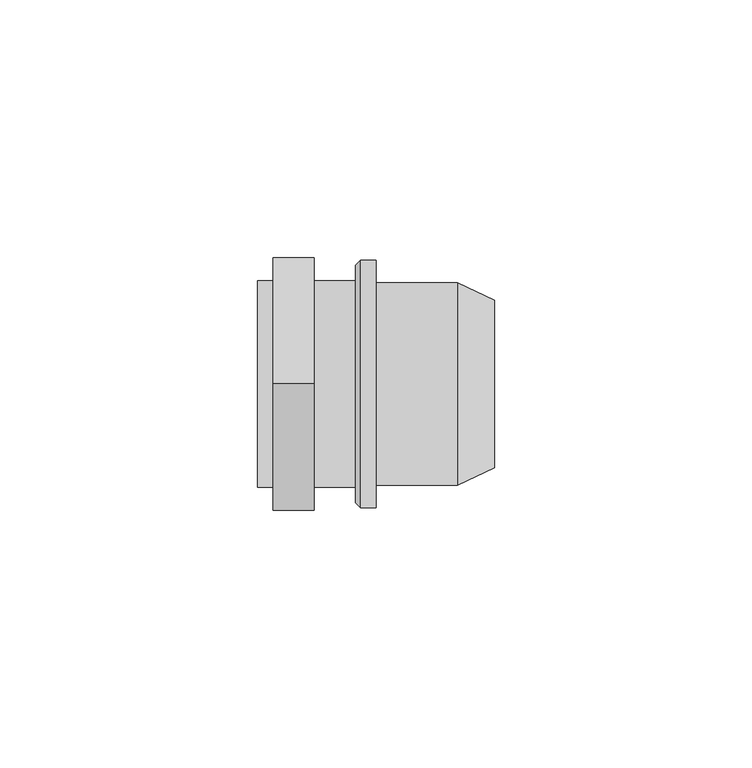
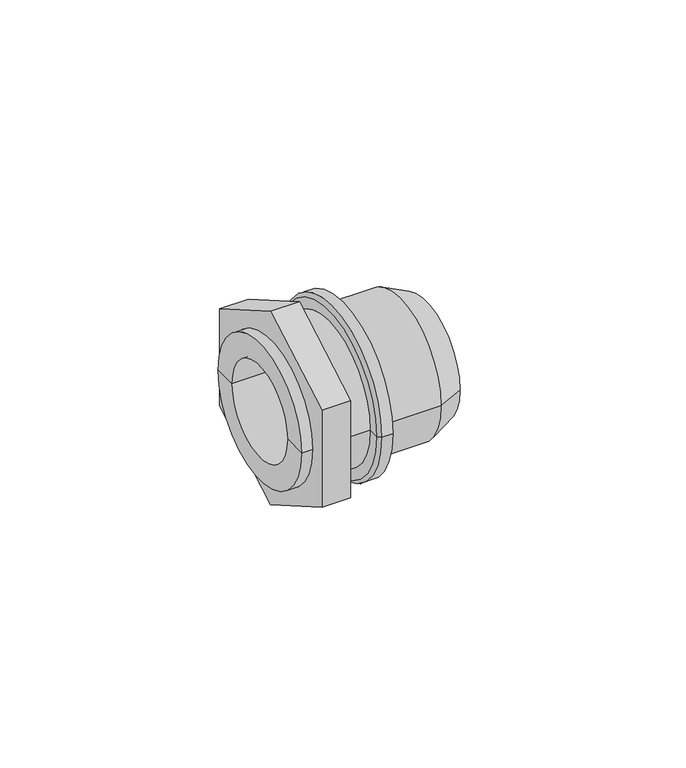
"""IFC4 building model written with IfcOpenShell, lengths in millimetres: pipe fitting geometry."""

from ifc_helpers import new_model, si_unit, point, frame, origin, origin_2d, place, context, project, spatial, polyline, circle_curve, trimmed, segment, composite_curve, outline, extrude, source, transform, mapped, element, save
from ifc_brep_helpers import plane_surface, cylinder_surface, revolved_surface, advanced_brep


def pipe_fitting_d3801dd3(model_context):
    return source(origin(), model_context, "Body", "SolidModel", [
        extrude(outline(polyline([(24.5, -14.1450816), (0.0, -28.2901632), (-24.5, -14.1450816), (-24.5, 14.1450816), (0.0, 28.2901632), (24.5, 14.1450816), (24.5, -14.1450816)]), holes=[composite_curve([segment(trimmed(circle_curve(origin_2d(), 20.0), [point((20.0, 0.0))], [point((-20.0, 0.0))], True, "CARTESIAN"), True, "CONTINUOUS"), segment(trimmed(circle_curve(origin_2d(), 20.0), [point((-20.0, 0.0))], [point((20.0, 0.0))], True, "CARTESIAN"), True, "CONTINUOUS")], self_intersect=False)]), frame((-20.0, 0.0, 0.0), z_axis=(1.0, 0.0, 0.0), x_axis=(0.0, 1.0, 0.0)), (0.0, 0.0, 1.0), 8.0),
        advanced_brep(
        [(0.0, 19.6, 0.0), (0.0, -19.6, 0.0), (0.0, 0.0, 0.0), (15.8159018, 19.6, 0.0), (15.8159018, -19.6, 0.0), (23.0, 16.25, 0.0), (23.0, -16.25, 0.0), (3.0, 14.0, 0.0), (3.0, -14.0, 0.0), (23.0, -14.0, 0.0), (23.0, 14.0, 0.0), (3.0, 0.0, 0.0)],
        [
            (0, 1, circle_curve(frame((0.0, 0.0, 0.0), z_axis=(-1.0, 0.0, 0.0), x_axis=(0.0, -1.0, 0.0)), 19.6)),
            (1, 2),
            (2, 0),
            (1, 0, circle_curve(frame((0.0, 0.0, 0.0), z_axis=(-1.0, 0.0, 0.0), x_axis=(0.0, -1.0, 0.0)), 19.6)),
            (3, 4, circle_curve(frame((15.8159018, 0.0, 0.0), z_axis=(-1.0, 0.0, 0.0), x_axis=(0.0, -1.0, 0.0)), 19.6)),
            (4, 1),
            (0, 3),
            (4, 3, circle_curve(frame((15.8159018, 0.0, 0.0), z_axis=(-1.0, 0.0, 0.0), x_axis=(0.0, -1.0, 0.0)), 19.6)),
            (5, 6, circle_curve(frame((23.0, 0.0, 0.0), z_axis=(-1.0, 0.0, 0.0), x_axis=(0.0, -1.0, 0.0)), 16.25)),
            (6, 4),
            (3, 5),
            (6, 5, circle_curve(frame((23.0, 0.0, 0.0), z_axis=(-1.0, 0.0, 0.0), x_axis=(0.0, -1.0, 0.0)), 16.25)),
            (7, 8, circle_curve(frame((3.0, 0.0, 0.0), z_axis=(-1.0, 0.0, 0.0), x_axis=(0.0, -1.0, 0.0)), 14.0)),
            (8, 9),
            (9, 10, circle_curve(frame((23.0, 0.0, 0.0), z_axis=(1.0, 0.0, 0.0), x_axis=(0.0, -1.0, 0.0)), 14.0)),
            (10, 7),
            (8, 7, circle_curve(frame((3.0, 0.0, 0.0), z_axis=(-1.0, 0.0, 0.0), x_axis=(0.0, -1.0, 0.0)), 14.0)),
            (10, 9, circle_curve(frame((23.0, 0.0, 0.0), z_axis=(1.0, 0.0, 0.0), x_axis=(0.0, -1.0, 0.0)), 14.0)),
            (11, 8),
            (7, 11),
            (9, 6),
            (5, 10),
        ],
        [
            plane_surface(frame((0.0, 0.0, 0.0), z_axis=(-1.0, 0.0, 0.0), x_axis=(0.0, -1.0, 0.0))),
            cylinder_surface(frame((33.0, 0.0, 0.0), z_axis=(1.0, 0.0, 0.0), x_axis=(0.0, -1.0, 0.0)), 19.6),
            revolved_surface(polyline([(15.8159018, -19.6, 0.0), (23.0, -16.25, 0.0)]), (33.0, 0.0, 0.0), (1.0, 0.0, 0.0)),
            revolved_surface(polyline([(23.0, -14.0, 0.0), (3.0, -14.0, 0.0)]), (33.0, 0.0, 0.0), (1.0, 0.0, 0.0)),
            plane_surface(frame((3.0, 0.0, 0.0), z_axis=(1.0, 0.0, 0.0), x_axis=(0.0, -1.0, 0.0))),
            plane_surface(frame((23.0, 0.0, 0.0), z_axis=(1.0, 0.0, 0.0), x_axis=(0.0, -1.0, 0.0))),
        ],
        [
            (0, [[1, 2, 3]]),
            (0, [[4, -3, -2]]),
            (1, [[5, 6, -1, 7]]),
            (1, [[8, -7, -4, -6]]),
            (2, [[9, 10, -5, 11]]),
            (2, [[12, -11, -8, -10]]),
            (3, [[13, 14, 15, 16]]),
            (3, [[17, -16, 18, -14]]),
            (4, [[19, -13, 20]]),
            (4, [[-20, -17, -19]]),
            (5, [[-15, 21, -9, 22]]),
            (5, [[-18, -22, -12, -21]]),
        ],
    ),
        advanced_brep(
        [(0.0, 24.0, 0.0), (0.0, -24.0, 0.0), (-3.0, -24.0, 0.0), (-3.0, 24.0, 0.0), (0.0, 0.0, 0.0), (-23.0, 20.0, 0.0), (-23.0, -20.0, 0.0), (-23.0, -13.45, 0.0), (-23.0, 13.45, 0.0), (-4.0, 20.0, 0.0), (-4.0, -20.0, 0.0), (-4.0, 23.0, 0.0), (-4.0, -23.0, 0.0), (-3.0, 13.45, 0.0), (-3.0, -13.45, 0.0), (-3.0, 0.0, 0.0)],
        [
            (0, 1, circle_curve(frame((0.0, 0.0, 0.0), z_axis=(-1.0, 0.0, 0.0), x_axis=(0.0, -1.0, 0.0)), 24.0)),
            (1, 2),
            (2, 3, circle_curve(frame((-3.0, 0.0, 0.0), z_axis=(1.0, 0.0, 0.0), x_axis=(0.0, -1.0, 0.0)), 24.0)),
            (3, 0),
            (1, 0, circle_curve(frame((0.0, 0.0, 0.0), z_axis=(-1.0, 0.0, 0.0), x_axis=(0.0, -1.0, 0.0)), 24.0)),
            (3, 2, circle_curve(frame((-3.0, 0.0, 0.0), z_axis=(1.0, 0.0, 0.0), x_axis=(0.0, -1.0, 0.0)), 24.0)),
            (0, 4),
            (4, 1),
            (5, 6, circle_curve(frame((-23.0, 0.0, 0.0), z_axis=(-1.0, 0.0, 0.0), x_axis=(0.0, -1.0, 0.0)), 20.0)),
            (6, 7),
            (7, 8, circle_curve(frame((-23.0, 0.0, 0.0), z_axis=(1.0, 0.0, 0.0), x_axis=(0.0, -1.0, 0.0)), 13.45)),
            (8, 5),
            (6, 5, circle_curve(frame((-23.0, 0.0, 0.0), z_axis=(-1.0, 0.0, 0.0), x_axis=(0.0, -1.0, 0.0)), 20.0)),
            (8, 7, circle_curve(frame((-23.0, 0.0, 0.0), z_axis=(1.0, 0.0, 0.0), x_axis=(0.0, -1.0, 0.0)), 13.45)),
            (5, 9),
            (9, 10, circle_curve(frame((-4.0, 0.0, 0.0), z_axis=(-1.0, 0.0, 0.0), x_axis=(0.0, -1.0, 0.0)), 20.0)),
            (10, 6),
            (10, 9, circle_curve(frame((-4.0, 0.0, 0.0), z_axis=(-1.0, 0.0, 0.0), x_axis=(0.0, -1.0, 0.0)), 20.0)),
            (9, 11),
            (11, 12, circle_curve(frame((-4.0, 0.0, 0.0), z_axis=(-1.0, 0.0, 0.0), x_axis=(0.0, -1.0, 0.0)), 23.0)),
            (12, 10),
            (12, 11, circle_curve(frame((-4.0, 0.0, 0.0), z_axis=(-1.0, 0.0, 0.0), x_axis=(0.0, -1.0, 0.0)), 23.0)),
            (2, 12),
            (11, 3),
            (13, 8),
            (7, 14),
            (14, 13, circle_curve(frame((-3.0, 0.0, 0.0), z_axis=(1.0, 0.0, 0.0), x_axis=(0.0, -1.0, 0.0)), 13.45)),
            (13, 14, circle_curve(frame((-3.0, 0.0, 0.0), z_axis=(1.0, 0.0, 0.0), x_axis=(0.0, -1.0, 0.0)), 13.45)),
            (14, 15),
            (15, 13),
        ],
        [
            cylinder_surface(frame((-29.689258, 0.0, 0.0), z_axis=(1.0, 0.0, 0.0), x_axis=(0.0, -1.0, 0.0)), 24.0),
            plane_surface(frame((0.0, 0.0, 0.0), z_axis=(1.0, 0.0, 0.0), x_axis=(0.0, -1.0, 0.0))),
            plane_surface(frame((-23.0, 0.0, 0.0), z_axis=(-1.0, 0.0, 0.0), x_axis=(0.0, -1.0, 0.0))),
            cylinder_surface(frame((-29.689258, 0.0, 0.0), z_axis=(1.0, 0.0, 0.0), x_axis=(0.0, -1.0, 0.0)), 20.0),
            plane_surface(frame((-4.0, 0.0, 0.0), z_axis=(-1.0, 0.0, 0.0), x_axis=(0.0, -1.0, 0.0))),
            revolved_surface(polyline([(-4.0, -23.0, 0.0), (-3.0, -24.0, 0.0)]), (-29.689258, 0.0, 0.0), (1.0, 0.0, 0.0)),
            revolved_surface(polyline([(-3.0, -13.45, 0.0), (-23.0, -13.45, 0.0)]), (-56.2566115, 0.0, 0.0), (1.0, 0.0, 0.0)),
            plane_surface(frame((-3.0, 0.0, 0.0), z_axis=(-1.0, 0.0, 0.0), x_axis=(0.0, -1.0, 0.0))),
        ],
        [
            (0, [[1, 2, 3, 4]]),
            (0, [[-2, 5, -4, 6]]),
            (1, [[-1, 7, 8]]),
            (1, [[-5, -8, -7]]),
            (2, [[9, 10, 11, 12]]),
            (2, [[13, -12, 14, -10]]),
            (3, [[-9, 15, 16, 17]]),
            (3, [[-13, -17, 18, -15]]),
            (4, [[-16, 19, 20, 21]]),
            (4, [[-18, -21, 22, -19]]),
            (5, [[-3, 23, -20, 24]]),
            (5, [[-6, -24, -22, -23]]),
            (6, [[25, -11, 26, 27]]),
            (6, [[-25, 28, -26, -14]]),
            (7, [[-27, 29, 30]]),
            (7, [[-28, -30, -29]]),
        ],
    ),
    ])


if __name__ == "__main__":
    model = new_model("IFC4")
    model_context = context("Model", 3, world=origin())
    ifc_project = project(units=[si_unit("LENGTHUNIT", "METRE", prefix="MILLI")], contexts=[model_context])
    site = spatial("IfcSite", under=ifc_project)
    building = spatial("IfcBuilding", under=site)
    placement = place(None, origin())
    pipe_fitting_shape = pipe_fitting_d3801dd3(model_context)
    element("IfcPipeFitting", 1, ObjectType="NLRS_50_PIF_UN_adapter op verdeler met steekaansluiting, binnendraad_geb : DN25-25/R1\" / d28-28/R1\"", at=placement, inside=building, context=model_context, shape_type="MappedRepresentation", body=[
        mapped(pipe_fitting_shape, transform((0.0, 0.0, 0.0), x_axis=(1.0, 0.0, 0.0), y_axis=(0.0, 1.0, 0.0), z_axis=(0.0, 0.0, 1.0))),
    ])
    save(model, "model.ifc")
